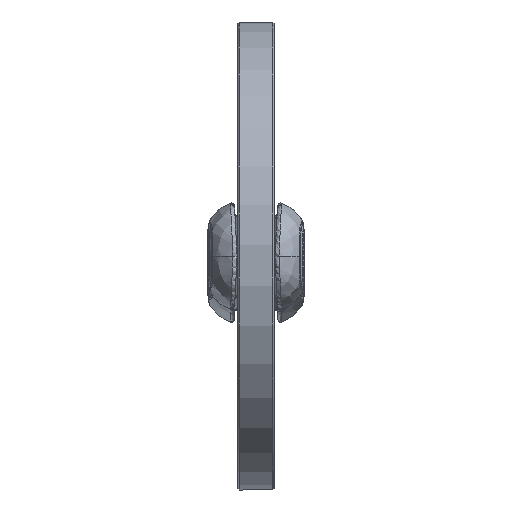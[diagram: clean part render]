
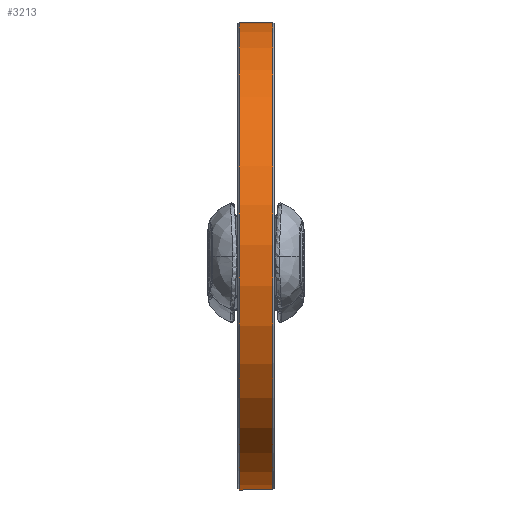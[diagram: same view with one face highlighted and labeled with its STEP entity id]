
A CAD part, top view. The second image highlights one B-rep face of the part: STEP entity #3213.
In plain terms, the highlighted cylindrical face has radius 905 mm (diameter 1810 mm), a full revolution.
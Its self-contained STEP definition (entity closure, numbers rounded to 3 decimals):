
#648=CYLINDRICAL_SURFACE($,#3573,905.);
#775=FACE_BOUND($,#1321,.T.);
#991=FACE_OUTER_BOUND($,#1320,.T.);
#1320=EDGE_LOOP($,(#2943));
#1321=EDGE_LOOP($,(#2944));
#1512=CIRCLE($,#3572,905.);
#1513=CIRCLE($,#3574,905.);
#1791=VERTEX_POINT($,#14153);
#1792=VERTEX_POINT($,#14156);
#2180=EDGE_CURVE($,#1791,#1791,#1512,.T.);
#2181=EDGE_CURVE($,#1792,#1792,#1513,.T.);
#2943=ORIENTED_EDGE($,*,*,#2181,.F.);
#2944=ORIENTED_EDGE($,*,*,#2180,.F.);
#3213=ADVANCED_FACE($,(#991,#775),#648,.T.);
#3572=AXIS2_PLACEMENT_3D($,#14154,#4313,#4314);
#3573=AXIS2_PLACEMENT_3D($,#14155,#4315,#4316);
#3574=AXIS2_PLACEMENT_3D($,#14157,#4317,#4318);
#4313=DIRECTION('center_axis',(0.,0.,-1.));
#4314=DIRECTION('ref_axis',(-1.,0.,0.));
#4315=DIRECTION('center_axis',(0.,0.,1.));
#4316=DIRECTION('ref_axis',(-1.,0.,0.));
#4317=DIRECTION('center_axis',(0.,0.,1.));
#4318=DIRECTION('ref_axis',(-1.,0.,0.));
#14153=CARTESIAN_POINT('',(905.,0.,-64.));
#14154=CARTESIAN_POINT('Origin',(0.,0.,-64.));
#14155=CARTESIAN_POINT('Origin',(0.,0.,0.));
#14156=CARTESIAN_POINT('',(905.,0.,64.));
#14157=CARTESIAN_POINT('Origin',(0.,0.,64.));
